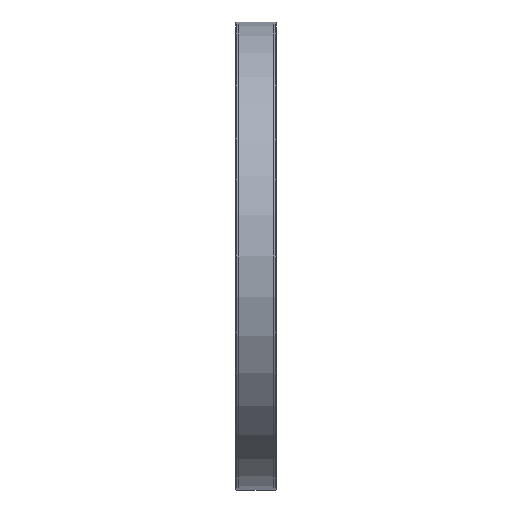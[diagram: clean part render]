
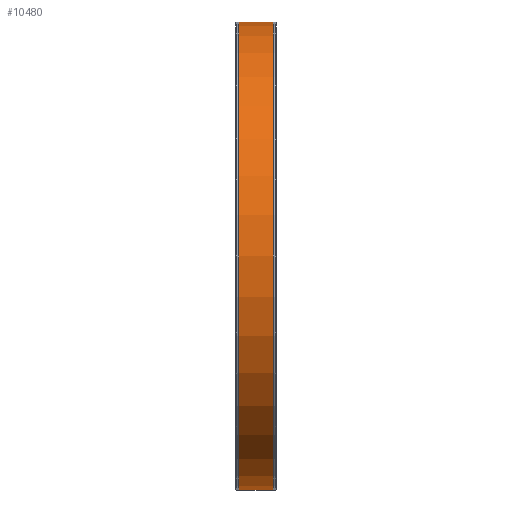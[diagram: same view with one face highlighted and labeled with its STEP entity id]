
A CAD part, left-side view. The second image highlights one B-rep face of the part: STEP entity #10480.
In plain terms, the highlighted cylindrical face has radius 81.2 mm (diameter 162.4 mm), a partial arc.
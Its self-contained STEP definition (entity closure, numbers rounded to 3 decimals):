
#237 = ORIENTED_EDGE ( 'NONE', *, *, #26478, .F. ) ;
#537 = DIRECTION ( 'NONE',  ( 0., 0., -1. ) ) ;
#1310 = VERTEX_POINT ( 'NONE', #20873 ) ;
#1377 = DIRECTION ( 'NONE',  ( 0., 1., 0. ) ) ;
#3339 = VECTOR ( 'NONE', #28541, 1000. ) ;
#4151 = AXIS2_PLACEMENT_3D ( 'NONE', #27320, #15814, #20155 ) ;
#5397 = EDGE_CURVE ( 'NONE', #1310, #9207, #19759, .T. ) ;
#5399 = DIRECTION ( 'NONE',  ( 0., 1., 0. ) ) ;
#5841 = EDGE_CURVE ( 'NONE', #23426, #12351, #26241, .T. ) ;
#7085 = CARTESIAN_POINT ( 'NONE',  ( 0., 13., 0. ) ) ;
#7399 = DIRECTION ( 'NONE',  ( 0., -1., 0. ) ) ;
#8121 = ORIENTED_EDGE ( 'NONE', *, *, #9310, .T. ) ;
#8537 = LINE ( 'NONE', #21844, #12791 ) ;
#9207 = VERTEX_POINT ( 'NONE', #19156 ) ;
#9246 = AXIS2_PLACEMENT_3D ( 'NONE', #7085, #7399, #537 ) ;
#9310 = EDGE_CURVE ( 'NONE', #12351, #1310, #8537, .T. ) ;
#9368 = CYLINDRICAL_SURFACE ( 'NONE', #4151, 81.2 ) ;
#10480 = ADVANCED_FACE ( 'NONE', ( #27458 ), #9368, .T. ) ;
#11915 = AXIS2_PLACEMENT_3D ( 'NONE', #28253, #5399, #21701 ) ;
#12351 = VERTEX_POINT ( 'NONE', #13951 ) ;
#12791 = VECTOR ( 'NONE', #1377, 1000. ) ;
#13951 = CARTESIAN_POINT ( 'NONE',  ( 0., 1., 81.2 ) ) ;
#15188 = ORIENTED_EDGE ( 'NONE', *, *, #5841, .T. ) ;
#15814 = DIRECTION ( 'NONE',  ( 0., 1., 0. ) ) ;
#16119 = EDGE_LOOP ( 'NONE', ( #237, #15188, #8121, #23974 ) ) ;
#16609 = LINE ( 'NONE', #21395, #3339 ) ;
#18564 = CARTESIAN_POINT ( 'NONE',  ( 0., 1., -81.2 ) ) ;
#19156 = CARTESIAN_POINT ( 'NONE',  ( 0., 13., -81.2 ) ) ;
#19759 = CIRCLE ( 'NONE', #9246, 81.2 ) ;
#20155 = DIRECTION ( 'NONE',  ( 0., 0., 1. ) ) ;
#20873 = CARTESIAN_POINT ( 'NONE',  ( 0., 13., 81.2 ) ) ;
#21395 = CARTESIAN_POINT ( 'NONE',  ( 0., -15., -81.2 ) ) ;
#21701 = DIRECTION ( 'NONE',  ( 0., 0., 1. ) ) ;
#21844 = CARTESIAN_POINT ( 'NONE',  ( 0., -15., 81.2 ) ) ;
#23426 = VERTEX_POINT ( 'NONE', #18564 ) ;
#23974 = ORIENTED_EDGE ( 'NONE', *, *, #5397, .T. ) ;
#26241 = CIRCLE ( 'NONE', #11915, 81.2 ) ;
#26478 = EDGE_CURVE ( 'NONE', #23426, #9207, #16609, .T. ) ;
#27320 = CARTESIAN_POINT ( 'NONE',  ( 0., -15., 0. ) ) ;
#27458 = FACE_OUTER_BOUND ( 'NONE', #16119, .T. ) ;
#28253 = CARTESIAN_POINT ( 'NONE',  ( 0., 1., 0. ) ) ;
#28541 = DIRECTION ( 'NONE',  ( 0., 1., 0. ) ) ;
